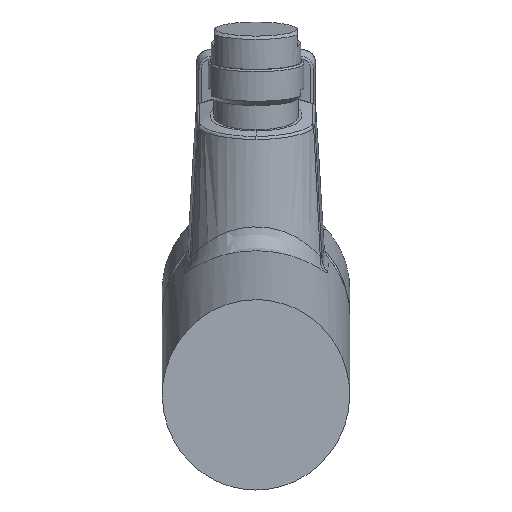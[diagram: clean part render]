
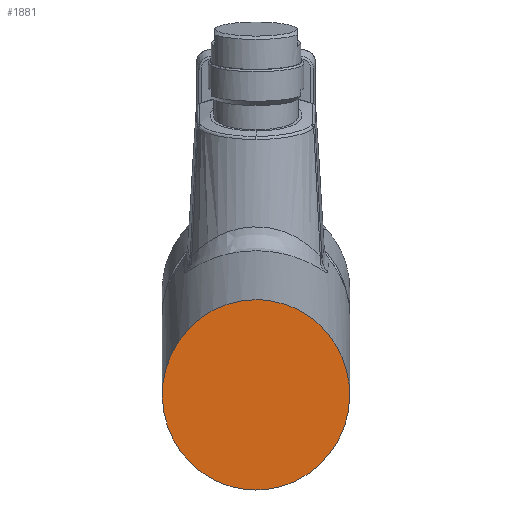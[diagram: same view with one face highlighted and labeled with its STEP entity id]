
A CAD part, front view. The second image highlights one B-rep face of the part: STEP entity #1881.
In plain terms, the highlighted planar face has unit normal (0, -1, 0).
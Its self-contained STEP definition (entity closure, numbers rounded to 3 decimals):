
#262 = FACE_OUTER_BOUND ( 'NONE', #7997, .T. ) ;
#481 = CARTESIAN_POINT ( 'NONE',  ( 0., 0., -25.386 ) ) ;
#1167 = CARTESIAN_POINT ( 'NONE',  ( 50., 0., 25.386 ) ) ;
#1881 = ADVANCED_FACE ( 'NONE', ( #262 ), #6812, .F. ) ;
#2849 = AXIS2_PLACEMENT_3D ( 'NONE', #2857, #7366, #3589 ) ;
#2857 = CARTESIAN_POINT ( 'NONE',  ( -48.485, 0., -20.367 ) ) ;
#3589 = DIRECTION ( 'NONE',  ( 0., 0., 1. ) ) ;
#4270 = VERTEX_POINT ( 'NONE', #7163 ) ;
#4625 = CARTESIAN_POINT ( 'NONE',  ( -50., 0., -25.386 ) ) ;
#5277 = CARTESIAN_POINT ( 'NONE',  ( 50., 0., -25.386 ) ) ;
#5918 = CARTESIAN_POINT ( 'NONE',  ( 0., 0., 25.386 ) ) ;
#6812 = PLANE ( 'NONE',  #2849 ) ;
#7163 = CARTESIAN_POINT ( 'NONE',  ( 0., 0., 25.386 ) ) ;
#7366 = DIRECTION ( 'NONE',  ( 0., 1., 0. ) ) ;
#7423 = ORIENTED_EDGE ( 'NONE', *, *, #8396, .T. ) ;
#7678 = CARTESIAN_POINT ( 'NONE',  ( -50., 0., 25.386 ) ) ;
#7713 =( BOUNDED_CURVE ( )  B_SPLINE_CURVE ( 3, ( #8258, #7678, #4625, #481, #5277, #1167, #5918 ),
 .UNSPECIFIED., .T., .T. ) 
 B_SPLINE_CURVE_WITH_KNOTS ( ( 4, 3, 4 ),
 ( 0., 3.142, 6.283 ),
 .UNSPECIFIED. ) 
 CURVE ( )  GEOMETRIC_REPRESENTATION_ITEM ( )  RATIONAL_B_SPLINE_CURVE ( ( 1., 0.333, 0.333, 1., 0.333, 0.333, 1. ) ) 
 REPRESENTATION_ITEM ( '' )  );
#7997 = EDGE_LOOP ( 'NONE', ( #7423 ) ) ;
#8258 = CARTESIAN_POINT ( 'NONE',  ( 0., 0., 25.386 ) ) ;
#8396 = EDGE_CURVE ( 'NONE', #4270, #4270, #7713, .T. ) ;
